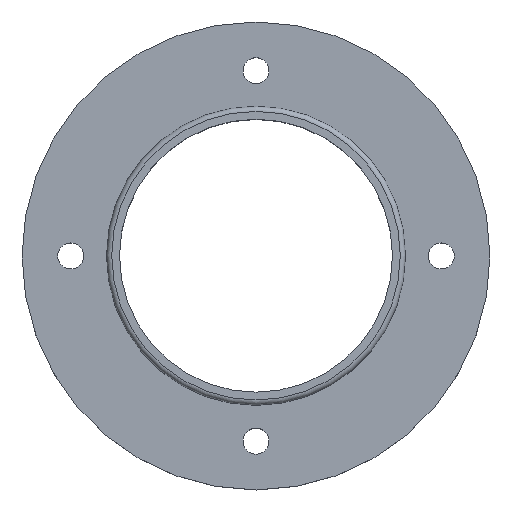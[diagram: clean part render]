
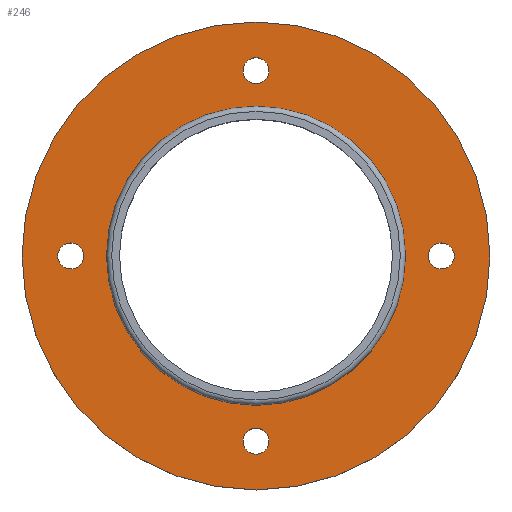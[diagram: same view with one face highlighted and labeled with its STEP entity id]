
A CAD part, top view. The second image highlights one B-rep face of the part: STEP entity #246.
In plain terms, the highlighted planar face has unit normal (0, 0, 1).
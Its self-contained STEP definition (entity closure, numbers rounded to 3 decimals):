
#22=FACE_BOUND('',#69,.T.);
#23=FACE_BOUND('',#70,.T.);
#24=FACE_BOUND('',#71,.T.);
#25=FACE_BOUND('',#72,.T.);
#26=FACE_BOUND('',#73,.T.);
#35=PLANE('',#304);
#50=FACE_OUTER_BOUND('',#68,.T.);
#68=EDGE_LOOP('',(#212));
#69=EDGE_LOOP('',(#213));
#70=EDGE_LOOP('',(#214));
#71=EDGE_LOOP('',(#215));
#72=EDGE_LOOP('',(#216));
#73=EDGE_LOOP('',(#217));
#104=CIRCLE('',#282,5.);
#106=CIRCLE('',#285,5.);
#108=CIRCLE('',#288,5.);
#110=CIRCLE('',#291,5.);
#114=CIRCLE('',#297,57.5);
#117=CIRCLE('',#303,90.);
#124=VERTEX_POINT('',#407);
#126=VERTEX_POINT('',#413);
#128=VERTEX_POINT('',#419);
#130=VERTEX_POINT('',#425);
#133=VERTEX_POINT('',#435);
#136=VERTEX_POINT('',#446);
#146=EDGE_CURVE('',#124,#124,#104,.T.);
#149=EDGE_CURVE('',#126,#126,#106,.T.);
#152=EDGE_CURVE('',#128,#128,#108,.T.);
#155=EDGE_CURVE('',#130,#130,#110,.T.);
#159=EDGE_CURVE('',#133,#133,#114,.T.);
#165=EDGE_CURVE('',#136,#136,#117,.T.);
#212=ORIENTED_EDGE('',*,*,#165,.T.);
#213=ORIENTED_EDGE('',*,*,#146,.T.);
#214=ORIENTED_EDGE('',*,*,#149,.T.);
#215=ORIENTED_EDGE('',*,*,#152,.T.);
#216=ORIENTED_EDGE('',*,*,#155,.T.);
#217=ORIENTED_EDGE('',*,*,#159,.T.);
#246=ADVANCED_FACE('',(#50,#22,#23,#24,#25,#26),#35,.T.);
#282=AXIS2_PLACEMENT_3D('',#409,#333,#334);
#285=AXIS2_PLACEMENT_3D('',#415,#340,#341);
#288=AXIS2_PLACEMENT_3D('',#421,#347,#348);
#291=AXIS2_PLACEMENT_3D('',#427,#354,#355);
#297=AXIS2_PLACEMENT_3D('',#436,#366,#367);
#303=AXIS2_PLACEMENT_3D('',#448,#381,#382);
#304=AXIS2_PLACEMENT_3D('',#449,#383,#384);
#333=DIRECTION('center_axis',(0.,0.,-1.));
#334=DIRECTION('ref_axis',(-1.,0.,0.));
#340=DIRECTION('center_axis',(0.,0.,-1.));
#341=DIRECTION('ref_axis',(-1.,0.,0.));
#347=DIRECTION('center_axis',(0.,0.,-1.));
#348=DIRECTION('ref_axis',(-1.,0.,0.));
#354=DIRECTION('center_axis',(0.,0.,-1.));
#355=DIRECTION('ref_axis',(-1.,0.,0.));
#366=DIRECTION('center_axis',(0.,0.,-1.));
#367=DIRECTION('ref_axis',(1.,0.,0.));
#381=DIRECTION('center_axis',(0.,0.,1.));
#382=DIRECTION('ref_axis',(1.,0.,0.));
#383=DIRECTION('center_axis',(0.,0.,1.));
#384=DIRECTION('ref_axis',(1.,0.,0.));
#407=CARTESIAN_POINT('',(76.25,0.,0.));
#409=CARTESIAN_POINT('Origin',(71.25,0.,0.));
#413=CARTESIAN_POINT('',(5.,-71.25,0.));
#415=CARTESIAN_POINT('Origin',(0.,-71.25,0.));
#419=CARTESIAN_POINT('',(-66.25,0.,0.));
#421=CARTESIAN_POINT('Origin',(-71.25,0.,0.));
#425=CARTESIAN_POINT('',(5.,71.25,0.));
#427=CARTESIAN_POINT('Origin',(0.,71.25,0.));
#435=CARTESIAN_POINT('',(-57.5,0.,0.));
#436=CARTESIAN_POINT('Origin',(0.,0.,0.));
#446=CARTESIAN_POINT('',(-90.,0.,0.));
#448=CARTESIAN_POINT('Origin',(0.,0.,0.));
#449=CARTESIAN_POINT('Origin',(0.,0.,0.));
